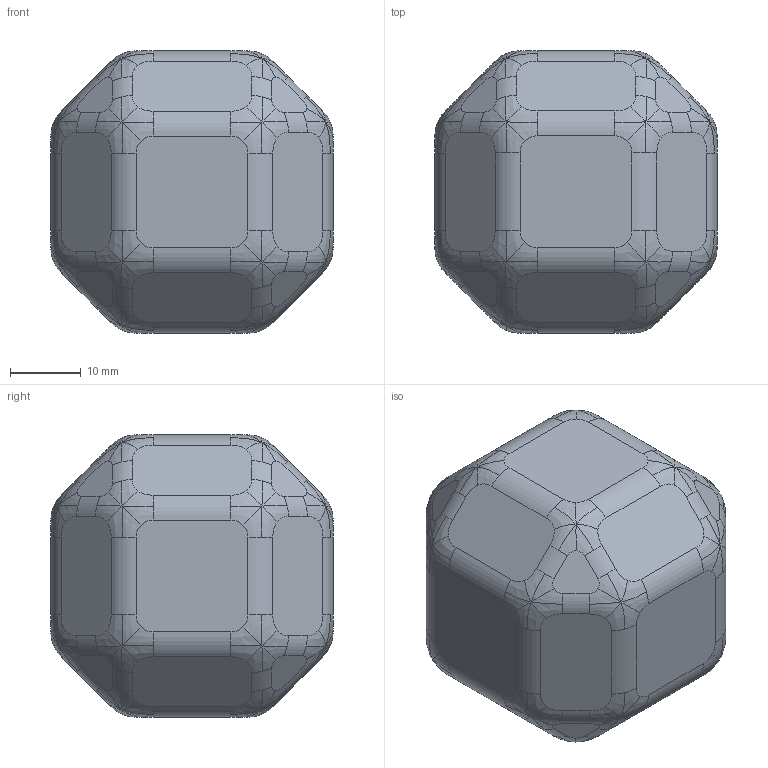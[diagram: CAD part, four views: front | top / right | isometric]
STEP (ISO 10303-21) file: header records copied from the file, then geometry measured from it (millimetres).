
FILE_DESCRIPTION(/* description */ (''),/* implementation_level */ '2;1');
FILE_NAME(/* name */ 'C:/dev/fablabverket/students/100/web/assignments/week5/models/funny_box_ball.step',/* time_stamp */ '2017-06-26T19:49:46+02:00',/* author */ (''),/* organization */ (''),/* preprocessor_version */ 'ST-DEVELOPER v16.13',/* originating_system */ 'Autodesk Translation Framework v6.1.1.50',/* authorisation */ '');
FILE_SCHEMA (('AUTOMOTIVE_DESIGN { 1 0 10303 214 3 1 1 }'));
Length unit declared in the file: millimetre
Products named in the file (1): funny_box_ball v1
Bounding box: 40 x 40 x 40 mm (x, y, z)
Volume: 44876.5 mm3; surface area: 6302 mm2
Topology: 1 solids, 1 shells, 266 faces, 672 edges, 408 vertices
Faces by surface type: bspline 192, cylinder 48, plane 26
Entity records: 25678 total; most frequent: CARTESIAN_POINT 20211, ORIENTED_EDGE 1344, DIRECTION 822, EDGE_CURVE 672, VERTEX_POINT 408, AXIS2_PLACEMENT_3D 363, CIRCLE 288, B_SPLINE_CURVE_WITH_KNOTS 288
